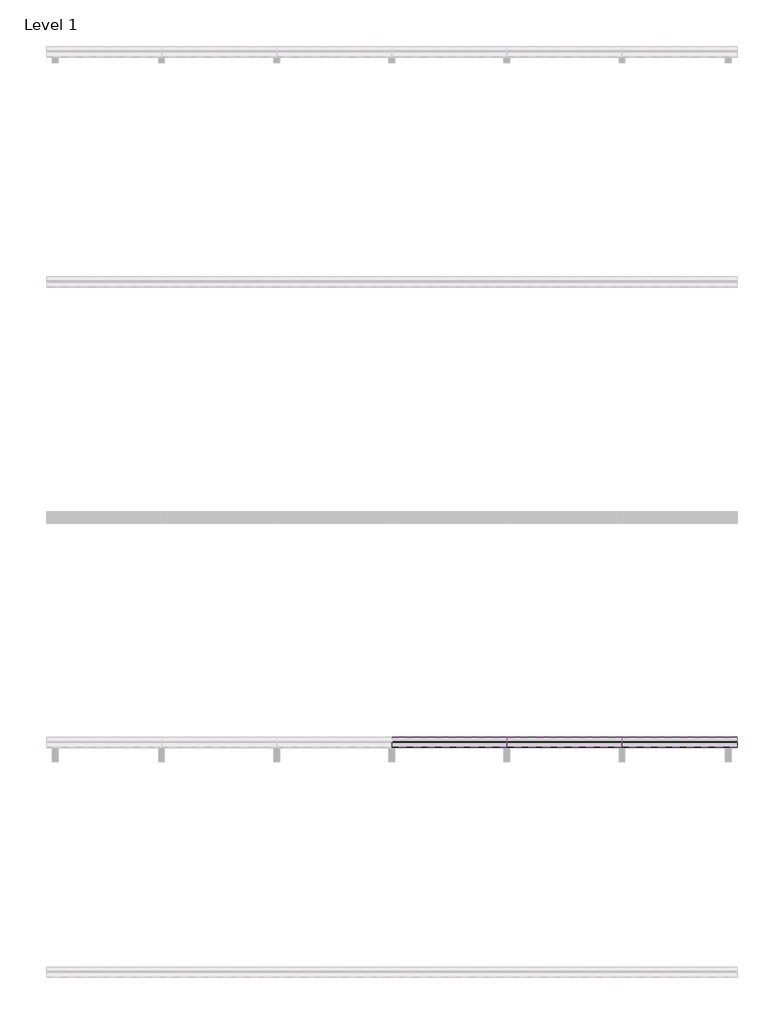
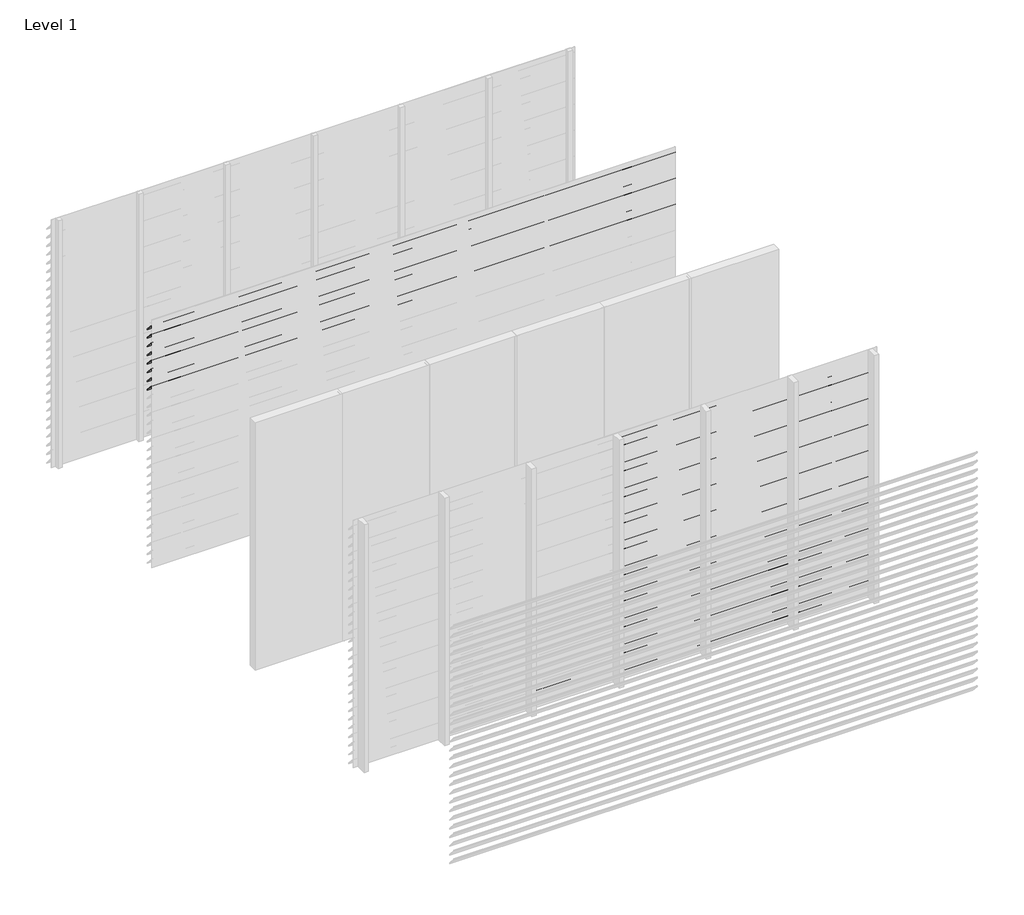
# One storey, part 3 of 9: 94 proxies.
"""IFC4 building model written with IfcOpenShell, lengths in millimetres."""

from ifc_helpers import new_model, si_unit, frame, origin, place, context, project, spatial, polyline, outline, extrude, element, save

model = new_model("IFC4")

# Units and contexts
model_context = context("Model", 3, world=origin())
ifc_project = project(units=[si_unit("LENGTHUNIT", "METRE", prefix="MILLI")], contexts=[model_context])

# Site, building, storey
site = spatial("IfcSite", under=ifc_project)
building = spatial("IfcBuilding", under=site)
storey = spatial("IfcBuildingStorey", under=building, Name="Level 1", Elevation=0.0)

# Proxies
placement = place(None, origin())
element("IfcBuildingElementProxy", 1, Name="Wall Sweeps", at=placement, inside=storey, context=model_context, shape_type="SweptSolid", body=[
    extrude(outline(polyline([(-13995.0, 2940.0), (-13995.0, 2935.6232888), (-13908.0, 2839.0), (-13908.0, 2829.0), (-13997.0, 2927.8445138), (-13997.0, 2940.0), (-13995.0, 2940.0)])), frame((0.0, 0.0, 0.0), z_axis=(1.0, 0.0, 0.0), x_axis=(0.0, 1.0, 0.0)), (0.0, 0.0, 1.0), 6000.0),
])
element("IfcBuildingElementProxy", 2, Name="Wall Sweeps", at=placement, inside=storey, context=model_context, shape_type="SweptSolid", body=[
    extrude(outline(polyline([(-13995.0, 2835.0), (-13995.0, 2830.6232888), (-13908.0, 2734.0), (-13908.0, 2724.0), (-13997.0, 2822.8445138), (-13997.0, 2835.0), (-13995.0, 2835.0)])), frame((0.0, 0.0, 0.0), z_axis=(1.0, 0.0, 0.0), x_axis=(0.0, 1.0, 0.0)), (0.0, 0.0, 1.0), 6000.0),
])
element("IfcBuildingElementProxy", 3, Name="Wall Sweeps", at=placement, inside=storey, context=model_context, shape_type="SweptSolid", body=[
    extrude(outline(polyline([(-13995.0, 2730.0), (-13995.0, 2725.6232888), (-13908.0, 2629.0), (-13908.0, 2619.0), (-13997.0, 2717.8445138), (-13997.0, 2730.0), (-13995.0, 2730.0)])), frame((0.0, 0.0, 0.0), z_axis=(1.0, 0.0, 0.0), x_axis=(0.0, 1.0, 0.0)), (0.0, 0.0, 1.0), 6000.0),
])
element("IfcBuildingElementProxy", 4, Name="Wall Sweeps", at=placement, inside=storey, context=model_context, shape_type="SweptSolid", body=[
    extrude(outline(polyline([(-13995.0, 2625.0), (-13995.0, 2620.6232888), (-13908.0, 2524.0), (-13908.0, 2514.0), (-13997.0, 2612.8445138), (-13997.0, 2625.0), (-13995.0, 2625.0)])), frame((0.0, 0.0, 0.0), z_axis=(1.0, 0.0, 0.0), x_axis=(0.0, 1.0, 0.0)), (0.0, 0.0, 1.0), 6000.0),
])
element("IfcBuildingElementProxy", 5, Name="Wall Sweeps", at=placement, inside=storey, context=model_context, shape_type="SweptSolid", body=[
    extrude(outline(polyline([(-13995.0, 2520.0), (-13995.0, 2515.6232888), (-13908.0, 2419.0), (-13908.0, 2409.0), (-13997.0, 2507.8445138), (-13997.0, 2520.0), (-13995.0, 2520.0)])), frame((0.0, 0.0, 0.0), z_axis=(1.0, 0.0, 0.0), x_axis=(0.0, 1.0, 0.0)), (0.0, 0.0, 1.0), 6000.0),
])
element("IfcBuildingElementProxy", 6, Name="Wall Sweeps", at=placement, inside=storey, context=model_context, shape_type="SweptSolid", body=[
    extrude(outline(polyline([(-13995.0, 2415.0), (-13995.0, 2410.6232888), (-13908.0, 2314.0), (-13908.0, 2304.0), (-13997.0, 2402.8445138), (-13997.0, 2415.0), (-13995.0, 2415.0)])), frame((0.0, 0.0, 0.0), z_axis=(1.0, 0.0, 0.0), x_axis=(0.0, 1.0, 0.0)), (0.0, 0.0, 1.0), 6000.0),
])
element("IfcBuildingElementProxy", 7, Name="Wall Sweeps", at=placement, inside=storey, context=model_context, shape_type="SweptSolid", body=[
    extrude(outline(polyline([(-13995.0, 2310.0), (-13995.0, 2305.6232888), (-13908.0, 2209.0), (-13908.0, 2199.0), (-13997.0, 2297.8445138), (-13997.0, 2310.0), (-13995.0, 2310.0)])), frame((0.0, 0.0, 0.0), z_axis=(1.0, 0.0, 0.0), x_axis=(0.0, 1.0, 0.0)), (0.0, 0.0, 1.0), 6000.0),
])
element("IfcBuildingElementProxy", 8, Name="Wall Sweeps", at=placement, inside=storey, context=model_context, shape_type="SweptSolid", body=[
    extrude(outline(polyline([(-13995.0, 2205.0), (-13995.0, 2200.6232888), (-13908.0, 2104.0), (-13908.0, 2094.0), (-13997.0, 2192.8445138), (-13997.0, 2205.0), (-13995.0, 2205.0)])), frame((0.0, 0.0, 0.0), z_axis=(1.0, 0.0, 0.0), x_axis=(0.0, 1.0, 0.0)), (0.0, 0.0, 1.0), 6000.0),
])
element("IfcBuildingElementProxy", 9, Name="Wall Sweeps", at=placement, inside=storey, context=model_context, shape_type="SweptSolid", body=[
    extrude(outline(polyline([(-17995.0, 2940.0), (-17995.0, 2935.6232888), (-17908.0, 2839.0), (-17908.0, 2829.0), (-17997.0, 2927.8445138), (-17997.0, 2940.0), (-17995.0, 2940.0)])), frame((4999.9999998, 0.0, 0.0), z_axis=(1.0, 0.0, 0.0), x_axis=(0.0, 1.0, 0.0)), (0.0, 0.0, 1.0), 1000.0000002),
])
element("IfcBuildingElementProxy", 10, Name="Wall Sweeps", at=placement, inside=storey, context=model_context, shape_type="SweptSolid", body=[
    extrude(outline(polyline([(-17995.0, 2835.0), (-17995.0, 2830.6232888), (-17908.0, 2734.0), (-17908.0, 2724.0), (-17997.0, 2822.8445138), (-17997.0, 2835.0), (-17995.0, 2835.0)])), frame((4999.9999998, 0.0, 0.0), z_axis=(1.0, 0.0, 0.0), x_axis=(0.0, 1.0, 0.0)), (0.0, 0.0, 1.0), 1000.0000002),
])
element("IfcBuildingElementProxy", 11, Name="Wall Sweeps", at=placement, inside=storey, context=model_context, shape_type="SweptSolid", body=[
    extrude(outline(polyline([(-17995.0, 2730.0), (-17995.0, 2725.6232888), (-17908.0, 2629.0), (-17908.0, 2619.0), (-17997.0, 2717.8445138), (-17997.0, 2730.0), (-17995.0, 2730.0)])), frame((4999.9999998, 0.0, 0.0), z_axis=(1.0, 0.0, 0.0), x_axis=(0.0, 1.0, 0.0)), (0.0, 0.0, 1.0), 1000.0000002),
])
element("IfcBuildingElementProxy", 12, Name="Wall Sweeps", at=placement, inside=storey, context=model_context, shape_type="SweptSolid", body=[
    extrude(outline(polyline([(-17995.0, 2625.0), (-17995.0, 2620.6232888), (-17908.0, 2524.0), (-17908.0, 2514.0), (-17997.0, 2612.8445138), (-17997.0, 2625.0), (-17995.0, 2625.0)])), frame((4999.9999998, 0.0, 0.0), z_axis=(1.0, 0.0, 0.0), x_axis=(0.0, 1.0, 0.0)), (0.0, 0.0, 1.0), 1000.0000002),
])
element("IfcBuildingElementProxy", 13, Name="Wall Sweeps", at=placement, inside=storey, context=model_context, shape_type="SweptSolid", body=[
    extrude(outline(polyline([(-17995.0, 2520.0), (-17995.0, 2515.6232888), (-17908.0, 2419.0), (-17908.0, 2409.0), (-17997.0, 2507.8445138), (-17997.0, 2520.0), (-17995.0, 2520.0)])), frame((4999.9999998, 0.0, 0.0), z_axis=(1.0, 0.0, 0.0), x_axis=(0.0, 1.0, 0.0)), (0.0, 0.0, 1.0), 1000.0000002),
])
element("IfcBuildingElementProxy", 14, Name="Wall Sweeps", at=placement, inside=storey, context=model_context, shape_type="SweptSolid", body=[
    extrude(outline(polyline([(-17995.0, 2415.0), (-17995.0, 2410.6232888), (-17908.0, 2314.0), (-17908.0, 2304.0), (-17997.0, 2402.8445138), (-17997.0, 2415.0), (-17995.0, 2415.0)])), frame((4999.9999998, 0.0, 0.0), z_axis=(1.0, 0.0, 0.0), x_axis=(0.0, 1.0, 0.0)), (0.0, 0.0, 1.0), 1000.0000002),
])
element("IfcBuildingElementProxy", 15, Name="Wall Sweeps", at=placement, inside=storey, context=model_context, shape_type="SweptSolid", body=[
    extrude(outline(polyline([(-17995.0, 2310.0), (-17995.0, 2305.6232888), (-17908.0, 2209.0), (-17908.0, 2199.0), (-17997.0, 2297.8445138), (-17997.0, 2310.0), (-17995.0, 2310.0)])), frame((4999.9999998, 0.0, 0.0), z_axis=(1.0, 0.0, 0.0), x_axis=(0.0, 1.0, 0.0)), (0.0, 0.0, 1.0), 1000.0000002),
])
element("IfcBuildingElementProxy", 16, Name="Wall Sweeps", at=placement, inside=storey, context=model_context, shape_type="SweptSolid", body=[
    extrude(outline(polyline([(-17995.0, 2205.0), (-17995.0, 2200.6232888), (-17908.0, 2104.0), (-17908.0, 2094.0), (-17997.0, 2192.8445138), (-17997.0, 2205.0), (-17995.0, 2205.0)])), frame((4999.9999998, 0.0, 0.0), z_axis=(1.0, 0.0, 0.0), x_axis=(0.0, 1.0, 0.0)), (0.0, 0.0, 1.0), 1000.0000002),
])
element("IfcBuildingElementProxy", 17, Name="Wall Sweeps", at=placement, inside=storey, context=model_context, shape_type="SweptSolid", body=[
    extrude(outline(polyline([(-17995.0, 2100.0), (-17995.0, 2095.6232888), (-17908.0, 1999.0), (-17908.0, 1989.0), (-17997.0, 2087.8445138), (-17997.0, 2100.0), (-17995.0, 2100.0)])), frame((4999.9999998, 0.0, 0.0), z_axis=(1.0, 0.0, 0.0), x_axis=(0.0, 1.0, 0.0)), (0.0, 0.0, 1.0), 1000.0000002),
])
element("IfcBuildingElementProxy", 18, Name="Wall Sweeps", at=placement, inside=storey, context=model_context, shape_type="SweptSolid", body=[
    extrude(outline(polyline([(-17995.0, 1995.0), (-17995.0, 1990.6232888), (-17908.0, 1894.0), (-17908.0, 1884.0), (-17997.0, 1982.8445138), (-17997.0, 1995.0), (-17995.0, 1995.0)])), frame((4999.9999998, 0.0, 0.0), z_axis=(1.0, 0.0, 0.0), x_axis=(0.0, 1.0, 0.0)), (0.0, 0.0, 1.0), 1000.0000002),
])
element("IfcBuildingElementProxy", 19, Name="Wall Sweeps", at=placement, inside=storey, context=model_context, shape_type="SweptSolid", body=[
    extrude(outline(polyline([(-17995.0, 1890.0), (-17995.0, 1885.6232888), (-17908.0, 1789.0), (-17908.0, 1779.0), (-17997.0, 1877.8445138), (-17997.0, 1890.0), (-17995.0, 1890.0)])), frame((4999.9999998, 0.0, 0.0), z_axis=(1.0, 0.0, 0.0), x_axis=(0.0, 1.0, 0.0)), (0.0, 0.0, 1.0), 1000.0000002),
])
element("IfcBuildingElementProxy", 20, Name="Wall Sweeps", at=placement, inside=storey, context=model_context, shape_type="SweptSolid", body=[
    extrude(outline(polyline([(-17995.0, 1785.0), (-17995.0, 1780.6232888), (-17908.0, 1684.0), (-17908.0, 1674.0), (-17997.0, 1772.8445138), (-17997.0, 1785.0), (-17995.0, 1785.0)])), frame((4999.9999998, 0.0, 0.0), z_axis=(1.0, 0.0, 0.0), x_axis=(0.0, 1.0, 0.0)), (0.0, 0.0, 1.0), 1000.0000002),
])
element("IfcBuildingElementProxy", 21, Name="Wall Sweeps", at=placement, inside=storey, context=model_context, shape_type="SweptSolid", body=[
    extrude(outline(polyline([(-17995.0, 1680.0), (-17995.0, 1675.6232888), (-17908.0, 1579.0), (-17908.0, 1569.0), (-17997.0, 1667.8445138), (-17997.0, 1680.0), (-17995.0, 1680.0)])), frame((4999.9999998, 0.0, 0.0), z_axis=(1.0, 0.0, 0.0), x_axis=(0.0, 1.0, 0.0)), (0.0, 0.0, 1.0), 1000.0000002),
])
element("IfcBuildingElementProxy", 22, Name="Wall Sweeps", at=placement, inside=storey, context=model_context, shape_type="SweptSolid", body=[
    extrude(outline(polyline([(-17995.0, 1575.0), (-17995.0, 1570.6232888), (-17908.0, 1474.0), (-17908.0, 1464.0), (-17997.0, 1562.8445138), (-17997.0, 1575.0), (-17995.0, 1575.0)])), frame((4999.9999998, 0.0, 0.0), z_axis=(1.0, 0.0, 0.0), x_axis=(0.0, 1.0, 0.0)), (0.0, 0.0, 1.0), 1000.0000002),
])
element("IfcBuildingElementProxy", 23, Name="Wall Sweeps", at=placement, inside=storey, context=model_context, shape_type="SweptSolid", body=[
    extrude(outline(polyline([(-17995.0, 1470.0), (-17995.0, 1465.6232888), (-17908.0, 1369.0), (-17908.0, 1359.0), (-17997.0, 1457.8445138), (-17997.0, 1470.0), (-17995.0, 1470.0)])), frame((4999.9999998, 0.0, 0.0), z_axis=(1.0, 0.0, 0.0), x_axis=(0.0, 1.0, 0.0)), (0.0, 0.0, 1.0), 1000.0000002),
])
element("IfcBuildingElementProxy", 24, Name="Wall Sweeps", at=placement, inside=storey, context=model_context, shape_type="SweptSolid", body=[
    extrude(outline(polyline([(-17995.0, 1365.0), (-17995.0, 1360.6232888), (-17908.0, 1264.0), (-17908.0, 1254.0), (-17997.0, 1352.8445138), (-17997.0, 1365.0), (-17995.0, 1365.0)])), frame((4999.9999998, 0.0, 0.0), z_axis=(1.0, 0.0, 0.0), x_axis=(0.0, 1.0, 0.0)), (0.0, 0.0, 1.0), 1000.0000002),
])
element("IfcBuildingElementProxy", 25, Name="Wall Sweeps", at=placement, inside=storey, context=model_context, shape_type="SweptSolid", body=[
    extrude(outline(polyline([(-17995.0, 1260.0), (-17995.0, 1255.6232888), (-17908.0, 1159.0), (-17908.0, 1149.0), (-17997.0, 1247.8445138), (-17997.0, 1260.0), (-17995.0, 1260.0)])), frame((4999.9999998, 0.0, 0.0), z_axis=(1.0, 0.0, 0.0), x_axis=(0.0, 1.0, 0.0)), (0.0, 0.0, 1.0), 1000.0000002),
])
element("IfcBuildingElementProxy", 26, Name="Wall Sweeps", at=placement, inside=storey, context=model_context, shape_type="SweptSolid", body=[
    extrude(outline(polyline([(-17995.0, 1155.0), (-17995.0, 1150.6232888), (-17908.0, 1054.0), (-17908.0, 1044.0), (-17997.0, 1142.8445138), (-17997.0, 1155.0), (-17995.0, 1155.0)])), frame((4999.9999998, 0.0, 0.0), z_axis=(1.0, 0.0, 0.0), x_axis=(0.0, 1.0, 0.0)), (0.0, 0.0, 1.0), 1000.0000002),
])
element("IfcBuildingElementProxy", 27, Name="Wall Sweeps", at=placement, inside=storey, context=model_context, shape_type="SweptSolid", body=[
    extrude(outline(polyline([(-17995.0, 1050.0), (-17995.0, 1045.6232888), (-17908.0, 949.0), (-17908.0, 939.0), (-17997.0, 1037.8445138), (-17997.0, 1050.0), (-17995.0, 1050.0)])), frame((4999.9999998, 0.0, 0.0), z_axis=(1.0, 0.0, 0.0), x_axis=(0.0, 1.0, 0.0)), (0.0, 0.0, 1.0), 1000.0000002),
])
element("IfcBuildingElementProxy", 28, Name="Wall Sweeps", at=placement, inside=storey, context=model_context, shape_type="SweptSolid", body=[
    extrude(outline(polyline([(-17995.0, 945.0), (-17995.0, 940.6232888), (-17908.0, 844.0), (-17908.0, 834.0), (-17997.0, 932.8445138), (-17997.0, 945.0), (-17995.0, 945.0)])), frame((4999.9999998, 0.0, 0.0), z_axis=(1.0, 0.0, 0.0), x_axis=(0.0, 1.0, 0.0)), (0.0, 0.0, 1.0), 1000.0000002),
])
element("IfcBuildingElementProxy", 29, Name="Wall Sweeps", at=placement, inside=storey, context=model_context, shape_type="SweptSolid", body=[
    extrude(outline(polyline([(-17995.0, 840.0), (-17995.0, 835.6232888), (-17908.0, 739.0), (-17908.0, 729.0), (-17997.0, 827.8445138), (-17997.0, 840.0), (-17995.0, 840.0)])), frame((4999.9999998, 0.0, 0.0), z_axis=(1.0, 0.0, 0.0), x_axis=(0.0, 1.0, 0.0)), (0.0, 0.0, 1.0), 1000.0000002),
])
element("IfcBuildingElementProxy", 30, Name="Wall Sweeps", at=placement, inside=storey, context=model_context, shape_type="SweptSolid", body=[
    extrude(outline(polyline([(-17995.0, 735.0), (-17995.0, 730.6232888), (-17908.0, 634.0), (-17908.0, 624.0), (-17997.0, 722.8445138), (-17997.0, 735.0), (-17995.0, 735.0)])), frame((4999.9999998, 0.0, 0.0), z_axis=(1.0, 0.0, 0.0), x_axis=(0.0, 1.0, 0.0)), (0.0, 0.0, 1.0), 1000.0000002),
])
element("IfcBuildingElementProxy", 31, Name="Wall Sweeps", at=placement, inside=storey, context=model_context, shape_type="SweptSolid", body=[
    extrude(outline(polyline([(-17995.0, 630.0), (-17995.0, 625.6232888), (-17908.0, 529.0), (-17908.0, 519.0), (-17997.0, 617.8445138), (-17997.0, 630.0), (-17995.0, 630.0)])), frame((4999.9999998, 0.0, 0.0), z_axis=(1.0, 0.0, 0.0), x_axis=(0.0, 1.0, 0.0)), (0.0, 0.0, 1.0), 1000.0000002),
])
element("IfcBuildingElementProxy", 32, Name="Wall Sweeps", at=placement, inside=storey, context=model_context, shape_type="SweptSolid", body=[
    extrude(outline(polyline([(-17995.0, 525.0), (-17995.0, 520.6232888), (-17908.0, 424.0), (-17908.0, 414.0), (-17997.0, 512.8445138), (-17997.0, 525.0), (-17995.0, 525.0)])), frame((4999.9999998, 0.0, 0.0), z_axis=(1.0, 0.0, 0.0), x_axis=(0.0, 1.0, 0.0)), (0.0, 0.0, 1.0), 1000.0000002),
])
element("IfcBuildingElementProxy", 33, Name="Wall Sweeps", at=placement, inside=storey, context=model_context, shape_type="SweptSolid", body=[
    extrude(outline(polyline([(-17995.0, 420.0), (-17995.0, 415.6232888), (-17908.0, 319.0), (-17908.0, 309.0), (-17997.0, 407.8445138), (-17997.0, 420.0), (-17995.0, 420.0)])), frame((4999.9999998, 0.0, 0.0), z_axis=(1.0, 0.0, 0.0), x_axis=(0.0, 1.0, 0.0)), (0.0, 0.0, 1.0), 1000.0000002),
])
element("IfcBuildingElementProxy", 34, Name="Wall Sweeps", at=placement, inside=storey, context=model_context, shape_type="SweptSolid", body=[
    extrude(outline(polyline([(-17995.0, 315.0), (-17995.0, 310.6232888), (-17908.0, 214.0), (-17908.0, 204.0), (-17997.0, 302.8445138), (-17997.0, 315.0), (-17995.0, 315.0)])), frame((4999.9999998, 0.0, 0.0), z_axis=(1.0, 0.0, 0.0), x_axis=(0.0, 1.0, 0.0)), (0.0, 0.0, 1.0), 1000.0000002),
])
element("IfcBuildingElementProxy", 35, Name="Wall Sweeps", at=placement, inside=storey, context=model_context, shape_type="SweptSolid", body=[
    extrude(outline(polyline([(-17995.0, 210.0), (-17995.0, 205.6232888), (-17908.0, 109.0), (-17908.0, 99.0), (-17997.0, 197.8445138), (-17997.0, 210.0), (-17995.0, 210.0)])), frame((4999.9999998, 0.0, 0.0), z_axis=(1.0, 0.0, 0.0), x_axis=(0.0, 1.0, 0.0)), (0.0, 0.0, 1.0), 1000.0000002),
])
element("IfcBuildingElementProxy", 36, Name="Wall Sweeps", at=placement, inside=storey, context=model_context, shape_type="SweptSolid", body=[
    extrude(outline(polyline([(-17995.0, 105.0), (-17995.0, 100.6232888), (-17908.0, 4.0), (-17908.0, -6.0), (-17997.0, 92.8445138), (-17997.0, 105.0), (-17995.0, 105.0)])), frame((4999.9999998, 0.0, 0.0), z_axis=(1.0, 0.0, 0.0), x_axis=(0.0, 1.0, 0.0)), (0.0, 0.0, 1.0), 1000.0000002),
])
element("IfcBuildingElementProxy", 37, Name="Wall Sweeps", at=placement, inside=storey, context=model_context, shape_type="SweptSolid", body=[
    extrude(outline(polyline([(-17995.0, 2940.0), (-17995.0, 2935.6232888), (-17908.0, 2839.0), (-17908.0, 2829.0), (-17997.0, 2927.8445138), (-17997.0, 2940.0), (-17995.0, 2940.0)])), frame((3999.9999999, 0.0, 0.0), z_axis=(1.0, 0.0, 0.0), x_axis=(0.0, 1.0, 0.0)), (0.0, 0.0, 1.0), 999.9999999),
])
element("IfcBuildingElementProxy", 38, Name="Wall Sweeps", at=placement, inside=storey, context=model_context, shape_type="SweptSolid", body=[
    extrude(outline(polyline([(-17995.0, 2835.0), (-17995.0, 2830.6232888), (-17908.0, 2734.0), (-17908.0, 2724.0), (-17997.0, 2822.8445138), (-17997.0, 2835.0), (-17995.0, 2835.0)])), frame((3999.9999999, 0.0, 0.0), z_axis=(1.0, 0.0, 0.0), x_axis=(0.0, 1.0, 0.0)), (0.0, 0.0, 1.0), 999.9999999),
])
element("IfcBuildingElementProxy", 39, Name="Wall Sweeps", at=placement, inside=storey, context=model_context, shape_type="SweptSolid", body=[
    extrude(outline(polyline([(-17995.0, 2730.0), (-17995.0, 2725.6232888), (-17908.0, 2629.0), (-17908.0, 2619.0), (-17997.0, 2717.8445138), (-17997.0, 2730.0), (-17995.0, 2730.0)])), frame((3999.9999999, 0.0, 0.0), z_axis=(1.0, 0.0, 0.0), x_axis=(0.0, 1.0, 0.0)), (0.0, 0.0, 1.0), 999.9999999),
])
element("IfcBuildingElementProxy", 40, Name="Wall Sweeps", at=placement, inside=storey, context=model_context, shape_type="SweptSolid", body=[
    extrude(outline(polyline([(-17995.0, 2625.0), (-17995.0, 2620.6232888), (-17908.0, 2524.0), (-17908.0, 2514.0), (-17997.0, 2612.8445138), (-17997.0, 2625.0), (-17995.0, 2625.0)])), frame((3999.9999999, 0.0, 0.0), z_axis=(1.0, 0.0, 0.0), x_axis=(0.0, 1.0, 0.0)), (0.0, 0.0, 1.0), 999.9999999),
])
element("IfcBuildingElementProxy", 41, Name="Wall Sweeps", at=placement, inside=storey, context=model_context, shape_type="SweptSolid", body=[
    extrude(outline(polyline([(-17995.0, 2520.0), (-17995.0, 2515.6232888), (-17908.0, 2419.0), (-17908.0, 2409.0), (-17997.0, 2507.8445138), (-17997.0, 2520.0), (-17995.0, 2520.0)])), frame((3999.9999999, 0.0, 0.0), z_axis=(1.0, 0.0, 0.0), x_axis=(0.0, 1.0, 0.0)), (0.0, 0.0, 1.0), 999.9999999),
])
element("IfcBuildingElementProxy", 42, Name="Wall Sweeps", at=placement, inside=storey, context=model_context, shape_type="SweptSolid", body=[
    extrude(outline(polyline([(-17995.0, 2415.0), (-17995.0, 2410.6232888), (-17908.0, 2314.0), (-17908.0, 2304.0), (-17997.0, 2402.8445138), (-17997.0, 2415.0), (-17995.0, 2415.0)])), frame((3999.9999999, 0.0, 0.0), z_axis=(1.0, 0.0, 0.0), x_axis=(0.0, 1.0, 0.0)), (0.0, 0.0, 1.0), 999.9999999),
])
element("IfcBuildingElementProxy", 43, Name="Wall Sweeps", at=placement, inside=storey, context=model_context, shape_type="SweptSolid", body=[
    extrude(outline(polyline([(-17995.0, 2310.0), (-17995.0, 2305.6232888), (-17908.0, 2209.0), (-17908.0, 2199.0), (-17997.0, 2297.8445138), (-17997.0, 2310.0), (-17995.0, 2310.0)])), frame((3999.9999999, 0.0, 0.0), z_axis=(1.0, 0.0, 0.0), x_axis=(0.0, 1.0, 0.0)), (0.0, 0.0, 1.0), 999.9999999),
])
element("IfcBuildingElementProxy", 44, Name="Wall Sweeps", at=placement, inside=storey, context=model_context, shape_type="SweptSolid", body=[
    extrude(outline(polyline([(-17995.0, 2205.0), (-17995.0, 2200.6232888), (-17908.0, 2104.0), (-17908.0, 2094.0), (-17997.0, 2192.8445138), (-17997.0, 2205.0), (-17995.0, 2205.0)])), frame((3999.9999999, 0.0, 0.0), z_axis=(1.0, 0.0, 0.0), x_axis=(0.0, 1.0, 0.0)), (0.0, 0.0, 1.0), 999.9999999),
])
element("IfcBuildingElementProxy", 45, Name="Wall Sweeps", at=placement, inside=storey, context=model_context, shape_type="SweptSolid", body=[
    extrude(outline(polyline([(-17995.0, 2100.0), (-17995.0, 2095.6232888), (-17908.0, 1999.0), (-17908.0, 1989.0), (-17997.0, 2087.8445138), (-17997.0, 2100.0), (-17995.0, 2100.0)])), frame((3999.9999999, 0.0, 0.0), z_axis=(1.0, 0.0, 0.0), x_axis=(0.0, 1.0, 0.0)), (0.0, 0.0, 1.0), 999.9999999),
])
element("IfcBuildingElementProxy", 46, Name="Wall Sweeps", at=placement, inside=storey, context=model_context, shape_type="SweptSolid", body=[
    extrude(outline(polyline([(-17995.0, 1995.0), (-17995.0, 1990.6232888), (-17908.0, 1894.0), (-17908.0, 1884.0), (-17997.0, 1982.8445138), (-17997.0, 1995.0), (-17995.0, 1995.0)])), frame((3999.9999999, 0.0, 0.0), z_axis=(1.0, 0.0, 0.0), x_axis=(0.0, 1.0, 0.0)), (0.0, 0.0, 1.0), 999.9999999),
])
element("IfcBuildingElementProxy", 47, Name="Wall Sweeps", at=placement, inside=storey, context=model_context, shape_type="SweptSolid", body=[
    extrude(outline(polyline([(-17995.0, 1890.0), (-17995.0, 1885.6232888), (-17908.0, 1789.0), (-17908.0, 1779.0), (-17997.0, 1877.8445138), (-17997.0, 1890.0), (-17995.0, 1890.0)])), frame((3999.9999999, 0.0, 0.0), z_axis=(1.0, 0.0, 0.0), x_axis=(0.0, 1.0, 0.0)), (0.0, 0.0, 1.0), 999.9999999),
])
element("IfcBuildingElementProxy", 48, Name="Wall Sweeps", at=placement, inside=storey, context=model_context, shape_type="SweptSolid", body=[
    extrude(outline(polyline([(-17995.0, 1785.0), (-17995.0, 1780.6232888), (-17908.0, 1684.0), (-17908.0, 1674.0), (-17997.0, 1772.8445138), (-17997.0, 1785.0), (-17995.0, 1785.0)])), frame((3999.9999999, 0.0, 0.0), z_axis=(1.0, 0.0, 0.0), x_axis=(0.0, 1.0, 0.0)), (0.0, 0.0, 1.0), 999.9999999),
])
element("IfcBuildingElementProxy", 49, Name="Wall Sweeps", at=placement, inside=storey, context=model_context, shape_type="SweptSolid", body=[
    extrude(outline(polyline([(-17995.0, 1680.0), (-17995.0, 1675.6232888), (-17908.0, 1579.0), (-17908.0, 1569.0), (-17997.0, 1667.8445138), (-17997.0, 1680.0), (-17995.0, 1680.0)])), frame((3999.9999999, 0.0, 0.0), z_axis=(1.0, 0.0, 0.0), x_axis=(0.0, 1.0, 0.0)), (0.0, 0.0, 1.0), 999.9999999),
])
element("IfcBuildingElementProxy", 50, Name="Wall Sweeps", at=placement, inside=storey, context=model_context, shape_type="SweptSolid", body=[
    extrude(outline(polyline([(-17995.0, 1575.0), (-17995.0, 1570.6232888), (-17908.0, 1474.0), (-17908.0, 1464.0), (-17997.0, 1562.8445138), (-17997.0, 1575.0), (-17995.0, 1575.0)])), frame((3999.9999999, 0.0, 0.0), z_axis=(1.0, 0.0, 0.0), x_axis=(0.0, 1.0, 0.0)), (0.0, 0.0, 1.0), 999.9999999),
])
element("IfcBuildingElementProxy", 51, Name="Wall Sweeps", at=placement, inside=storey, context=model_context, shape_type="SweptSolid", body=[
    extrude(outline(polyline([(-17995.0, 1470.0), (-17995.0, 1465.6232888), (-17908.0, 1369.0), (-17908.0, 1359.0), (-17997.0, 1457.8445138), (-17997.0, 1470.0), (-17995.0, 1470.0)])), frame((3999.9999999, 0.0, 0.0), z_axis=(1.0, 0.0, 0.0), x_axis=(0.0, 1.0, 0.0)), (0.0, 0.0, 1.0), 999.9999999),
])
element("IfcBuildingElementProxy", 52, Name="Wall Sweeps", at=placement, inside=storey, context=model_context, shape_type="SweptSolid", body=[
    extrude(outline(polyline([(-17995.0, 1365.0), (-17995.0, 1360.6232888), (-17908.0, 1264.0), (-17908.0, 1254.0), (-17997.0, 1352.8445138), (-17997.0, 1365.0), (-17995.0, 1365.0)])), frame((3999.9999999, 0.0, 0.0), z_axis=(1.0, 0.0, 0.0), x_axis=(0.0, 1.0, 0.0)), (0.0, 0.0, 1.0), 999.9999999),
])
element("IfcBuildingElementProxy", 53, Name="Wall Sweeps", at=placement, inside=storey, context=model_context, shape_type="SweptSolid", body=[
    extrude(outline(polyline([(-17995.0, 1260.0), (-17995.0, 1255.6232888), (-17908.0, 1159.0), (-17908.0, 1149.0), (-17997.0, 1247.8445138), (-17997.0, 1260.0), (-17995.0, 1260.0)])), frame((3999.9999999, 0.0, 0.0), z_axis=(1.0, 0.0, 0.0), x_axis=(0.0, 1.0, 0.0)), (0.0, 0.0, 1.0), 999.9999999),
])
element("IfcBuildingElementProxy", 54, Name="Wall Sweeps", at=placement, inside=storey, context=model_context, shape_type="SweptSolid", body=[
    extrude(outline(polyline([(-17995.0, 1155.0), (-17995.0, 1150.6232888), (-17908.0, 1054.0), (-17908.0, 1044.0), (-17997.0, 1142.8445138), (-17997.0, 1155.0), (-17995.0, 1155.0)])), frame((3999.9999999, 0.0, 0.0), z_axis=(1.0, 0.0, 0.0), x_axis=(0.0, 1.0, 0.0)), (0.0, 0.0, 1.0), 999.9999999),
])
element("IfcBuildingElementProxy", 55, Name="Wall Sweeps", at=placement, inside=storey, context=model_context, shape_type="SweptSolid", body=[
    extrude(outline(polyline([(-17995.0, 1050.0), (-17995.0, 1045.6232888), (-17908.0, 949.0), (-17908.0, 939.0), (-17997.0, 1037.8445138), (-17997.0, 1050.0), (-17995.0, 1050.0)])), frame((3999.9999999, 0.0, 0.0), z_axis=(1.0, 0.0, 0.0), x_axis=(0.0, 1.0, 0.0)), (0.0, 0.0, 1.0), 999.9999999),
])
element("IfcBuildingElementProxy", 56, Name="Wall Sweeps", at=placement, inside=storey, context=model_context, shape_type="SweptSolid", body=[
    extrude(outline(polyline([(-17995.0, 945.0), (-17995.0, 940.6232888), (-17908.0, 844.0), (-17908.0, 834.0), (-17997.0, 932.8445138), (-17997.0, 945.0), (-17995.0, 945.0)])), frame((3999.9999999, 0.0, 0.0), z_axis=(1.0, 0.0, 0.0), x_axis=(0.0, 1.0, 0.0)), (0.0, 0.0, 1.0), 999.9999999),
])
element("IfcBuildingElementProxy", 57, Name="Wall Sweeps", at=placement, inside=storey, context=model_context, shape_type="SweptSolid", body=[
    extrude(outline(polyline([(-17995.0, 840.0), (-17995.0, 835.6232888), (-17908.0, 739.0), (-17908.0, 729.0), (-17997.0, 827.8445138), (-17997.0, 840.0), (-17995.0, 840.0)])), frame((3999.9999999, 0.0, 0.0), z_axis=(1.0, 0.0, 0.0), x_axis=(0.0, 1.0, 0.0)), (0.0, 0.0, 1.0), 999.9999999),
])
element("IfcBuildingElementProxy", 58, Name="Wall Sweeps", at=placement, inside=storey, context=model_context, shape_type="SweptSolid", body=[
    extrude(outline(polyline([(-17995.0, 735.0), (-17995.0, 730.6232888), (-17908.0, 634.0), (-17908.0, 624.0), (-17997.0, 722.8445138), (-17997.0, 735.0), (-17995.0, 735.0)])), frame((3999.9999999, 0.0, 0.0), z_axis=(1.0, 0.0, 0.0), x_axis=(0.0, 1.0, 0.0)), (0.0, 0.0, 1.0), 999.9999999),
])
element("IfcBuildingElementProxy", 59, Name="Wall Sweeps", at=placement, inside=storey, context=model_context, shape_type="SweptSolid", body=[
    extrude(outline(polyline([(-17995.0, 630.0), (-17995.0, 625.6232888), (-17908.0, 529.0), (-17908.0, 519.0), (-17997.0, 617.8445138), (-17997.0, 630.0), (-17995.0, 630.0)])), frame((3999.9999999, 0.0, 0.0), z_axis=(1.0, 0.0, 0.0), x_axis=(0.0, 1.0, 0.0)), (0.0, 0.0, 1.0), 999.9999999),
])
element("IfcBuildingElementProxy", 60, Name="Wall Sweeps", at=placement, inside=storey, context=model_context, shape_type="SweptSolid", body=[
    extrude(outline(polyline([(-17995.0, 525.0), (-17995.0, 520.6232888), (-17908.0, 424.0), (-17908.0, 414.0), (-17997.0, 512.8445138), (-17997.0, 525.0), (-17995.0, 525.0)])), frame((3999.9999999, 0.0, 0.0), z_axis=(1.0, 0.0, 0.0), x_axis=(0.0, 1.0, 0.0)), (0.0, 0.0, 1.0), 999.9999999),
])
element("IfcBuildingElementProxy", 61, Name="Wall Sweeps", at=placement, inside=storey, context=model_context, shape_type="SweptSolid", body=[
    extrude(outline(polyline([(-17995.0, 420.0), (-17995.0, 415.6232888), (-17908.0, 319.0), (-17908.0, 309.0), (-17997.0, 407.8445138), (-17997.0, 420.0), (-17995.0, 420.0)])), frame((3999.9999999, 0.0, 0.0), z_axis=(1.0, 0.0, 0.0), x_axis=(0.0, 1.0, 0.0)), (0.0, 0.0, 1.0), 999.9999999),
])
element("IfcBuildingElementProxy", 62, Name="Wall Sweeps", at=placement, inside=storey, context=model_context, shape_type="SweptSolid", body=[
    extrude(outline(polyline([(-17995.0, 315.0), (-17995.0, 310.6232888), (-17908.0, 214.0), (-17908.0, 204.0), (-17997.0, 302.8445138), (-17997.0, 315.0), (-17995.0, 315.0)])), frame((3999.9999999, 0.0, 0.0), z_axis=(1.0, 0.0, 0.0), x_axis=(0.0, 1.0, 0.0)), (0.0, 0.0, 1.0), 999.9999999),
])
element("IfcBuildingElementProxy", 63, Name="Wall Sweeps", at=placement, inside=storey, context=model_context, shape_type="SweptSolid", body=[
    extrude(outline(polyline([(-17995.0, 210.0), (-17995.0, 205.6232888), (-17908.0, 109.0), (-17908.0, 99.0), (-17997.0, 197.8445138), (-17997.0, 210.0), (-17995.0, 210.0)])), frame((3999.9999999, 0.0, 0.0), z_axis=(1.0, 0.0, 0.0), x_axis=(0.0, 1.0, 0.0)), (0.0, 0.0, 1.0), 999.9999999),
])
element("IfcBuildingElementProxy", 64, Name="Wall Sweeps", at=placement, inside=storey, context=model_context, shape_type="SweptSolid", body=[
    extrude(outline(polyline([(-17995.0, 105.0), (-17995.0, 100.6232888), (-17908.0, 4.0), (-17908.0, -6.0), (-17997.0, 92.8445138), (-17997.0, 105.0), (-17995.0, 105.0)])), frame((3999.9999999, 0.0, 0.0), z_axis=(1.0, 0.0, 0.0), x_axis=(0.0, 1.0, 0.0)), (0.0, 0.0, 1.0), 999.9999999),
])
element("IfcBuildingElementProxy", 65, Name="Wall Sweeps", at=placement, inside=storey, context=model_context, shape_type="SweptSolid", body=[
    extrude(outline(polyline([(-17995.0, 2940.0), (-17995.0, 2935.6232888), (-17908.0, 2839.0), (-17908.0, 2829.0), (-17997.0, 2927.8445138), (-17997.0, 2940.0), (-17995.0, 2940.0)])), frame((3000.0, 0.0, 0.0), z_axis=(1.0, 0.0, 0.0), x_axis=(0.0, 1.0, 0.0)), (0.0, 0.0, 1.0), 999.9999999),
])
element("IfcBuildingElementProxy", 66, Name="Wall Sweeps", at=placement, inside=storey, context=model_context, shape_type="SweptSolid", body=[
    extrude(outline(polyline([(-17995.0, 2835.0), (-17995.0, 2830.6232888), (-17908.0, 2734.0), (-17908.0, 2724.0), (-17997.0, 2822.8445138), (-17997.0, 2835.0), (-17995.0, 2835.0)])), frame((3000.0, 0.0, 0.0), z_axis=(1.0, 0.0, 0.0), x_axis=(0.0, 1.0, 0.0)), (0.0, 0.0, 1.0), 999.9999999),
])
element("IfcBuildingElementProxy", 67, Name="Wall Sweeps", at=placement, inside=storey, context=model_context, shape_type="SweptSolid", body=[
    extrude(outline(polyline([(-17995.0, 2730.0), (-17995.0, 2725.6232888), (-17908.0, 2629.0), (-17908.0, 2619.0), (-17997.0, 2717.8445138), (-17997.0, 2730.0), (-17995.0, 2730.0)])), frame((3000.0, 0.0, 0.0), z_axis=(1.0, 0.0, 0.0), x_axis=(0.0, 1.0, 0.0)), (0.0, 0.0, 1.0), 999.9999999),
])
element("IfcBuildingElementProxy", 68, Name="Wall Sweeps", at=placement, inside=storey, context=model_context, shape_type="SweptSolid", body=[
    extrude(outline(polyline([(-17995.0, 2625.0), (-17995.0, 2620.6232888), (-17908.0, 2524.0), (-17908.0, 2514.0), (-17997.0, 2612.8445138), (-17997.0, 2625.0), (-17995.0, 2625.0)])), frame((3000.0, 0.0, 0.0), z_axis=(1.0, 0.0, 0.0), x_axis=(0.0, 1.0, 0.0)), (0.0, 0.0, 1.0), 999.9999999),
])
element("IfcBuildingElementProxy", 69, Name="Wall Sweeps", at=placement, inside=storey, context=model_context, shape_type="SweptSolid", body=[
    extrude(outline(polyline([(-17995.0, 2520.0), (-17995.0, 2515.6232888), (-17908.0, 2419.0), (-17908.0, 2409.0), (-17997.0, 2507.8445138), (-17997.0, 2520.0), (-17995.0, 2520.0)])), frame((3000.0, 0.0, 0.0), z_axis=(1.0, 0.0, 0.0), x_axis=(0.0, 1.0, 0.0)), (0.0, 0.0, 1.0), 999.9999999),
])
element("IfcBuildingElementProxy", 70, Name="Wall Sweeps", at=placement, inside=storey, context=model_context, shape_type="SweptSolid", body=[
    extrude(outline(polyline([(-17995.0, 2415.0), (-17995.0, 2410.6232888), (-17908.0, 2314.0), (-17908.0, 2304.0), (-17997.0, 2402.8445138), (-17997.0, 2415.0), (-17995.0, 2415.0)])), frame((3000.0, 0.0, 0.0), z_axis=(1.0, 0.0, 0.0), x_axis=(0.0, 1.0, 0.0)), (0.0, 0.0, 1.0), 999.9999999),
])
element("IfcBuildingElementProxy", 71, Name="Wall Sweeps", at=placement, inside=storey, context=model_context, shape_type="SweptSolid", body=[
    extrude(outline(polyline([(-17995.0, 2310.0), (-17995.0, 2305.6232888), (-17908.0, 2209.0), (-17908.0, 2199.0), (-17997.0, 2297.8445138), (-17997.0, 2310.0), (-17995.0, 2310.0)])), frame((3000.0, 0.0, 0.0), z_axis=(1.0, 0.0, 0.0), x_axis=(0.0, 1.0, 0.0)), (0.0, 0.0, 1.0), 999.9999999),
])
element("IfcBuildingElementProxy", 72, Name="Wall Sweeps", at=placement, inside=storey, context=model_context, shape_type="SweptSolid", body=[
    extrude(outline(polyline([(-17995.0, 2205.0), (-17995.0, 2200.6232888), (-17908.0, 2104.0), (-17908.0, 2094.0), (-17997.0, 2192.8445138), (-17997.0, 2205.0), (-17995.0, 2205.0)])), frame((3000.0, 0.0, 0.0), z_axis=(1.0, 0.0, 0.0), x_axis=(0.0, 1.0, 0.0)), (0.0, 0.0, 1.0), 999.9999999),
])
element("IfcBuildingElementProxy", 73, Name="Wall Sweeps", at=placement, inside=storey, context=model_context, shape_type="SweptSolid", body=[
    extrude(outline(polyline([(-17995.0, 2100.0), (-17995.0, 2095.6232888), (-17908.0, 1999.0), (-17908.0, 1989.0), (-17997.0, 2087.8445138), (-17997.0, 2100.0), (-17995.0, 2100.0)])), frame((3000.0, 0.0, 0.0), z_axis=(1.0, 0.0, 0.0), x_axis=(0.0, 1.0, 0.0)), (0.0, 0.0, 1.0), 999.9999999),
])
element("IfcBuildingElementProxy", 74, Name="Wall Sweeps", at=placement, inside=storey, context=model_context, shape_type="SweptSolid", body=[
    extrude(outline(polyline([(-17995.0, 1995.0), (-17995.0, 1990.6232888), (-17908.0, 1894.0), (-17908.0, 1884.0), (-17997.0, 1982.8445138), (-17997.0, 1995.0), (-17995.0, 1995.0)])), frame((3000.0, 0.0, 0.0), z_axis=(1.0, 0.0, 0.0), x_axis=(0.0, 1.0, 0.0)), (0.0, 0.0, 1.0), 999.9999999),
])
element("IfcBuildingElementProxy", 75, Name="Wall Sweeps", at=placement, inside=storey, context=model_context, shape_type="SweptSolid", body=[
    extrude(outline(polyline([(-17995.0, 1890.0), (-17995.0, 1885.6232888), (-17908.0, 1789.0), (-17908.0, 1779.0), (-17997.0, 1877.8445138), (-17997.0, 1890.0), (-17995.0, 1890.0)])), frame((3000.0, 0.0, 0.0), z_axis=(1.0, 0.0, 0.0), x_axis=(0.0, 1.0, 0.0)), (0.0, 0.0, 1.0), 999.9999999),
])
element("IfcBuildingElementProxy", 76, Name="Wall Sweeps", at=placement, inside=storey, context=model_context, shape_type="SweptSolid", body=[
    extrude(outline(polyline([(-17995.0, 1785.0), (-17995.0, 1780.6232888), (-17908.0, 1684.0), (-17908.0, 1674.0), (-17997.0, 1772.8445138), (-17997.0, 1785.0), (-17995.0, 1785.0)])), frame((3000.0, 0.0, 0.0), z_axis=(1.0, 0.0, 0.0), x_axis=(0.0, 1.0, 0.0)), (0.0, 0.0, 1.0), 999.9999999),
])
element("IfcBuildingElementProxy", 77, Name="Wall Sweeps", at=placement, inside=storey, context=model_context, shape_type="SweptSolid", body=[
    extrude(outline(polyline([(-17995.0, 1680.0), (-17995.0, 1675.6232888), (-17908.0, 1579.0), (-17908.0, 1569.0), (-17997.0, 1667.8445138), (-17997.0, 1680.0), (-17995.0, 1680.0)])), frame((3000.0, 0.0, 0.0), z_axis=(1.0, 0.0, 0.0), x_axis=(0.0, 1.0, 0.0)), (0.0, 0.0, 1.0), 999.9999999),
])
element("IfcBuildingElementProxy", 78, Name="Wall Sweeps", at=placement, inside=storey, context=model_context, shape_type="SweptSolid", body=[
    extrude(outline(polyline([(-17995.0, 1575.0), (-17995.0, 1570.6232888), (-17908.0, 1474.0), (-17908.0, 1464.0), (-17997.0, 1562.8445138), (-17997.0, 1575.0), (-17995.0, 1575.0)])), frame((3000.0, 0.0, 0.0), z_axis=(1.0, 0.0, 0.0), x_axis=(0.0, 1.0, 0.0)), (0.0, 0.0, 1.0), 999.9999999),
])
element("IfcBuildingElementProxy", 79, Name="Wall Sweeps", at=placement, inside=storey, context=model_context, shape_type="SweptSolid", body=[
    extrude(outline(polyline([(-17995.0, 1470.0), (-17995.0, 1465.6232888), (-17908.0, 1369.0), (-17908.0, 1359.0), (-17997.0, 1457.8445138), (-17997.0, 1470.0), (-17995.0, 1470.0)])), frame((3000.0, 0.0, 0.0), z_axis=(1.0, 0.0, 0.0), x_axis=(0.0, 1.0, 0.0)), (0.0, 0.0, 1.0), 999.9999999),
])
element("IfcBuildingElementProxy", 80, Name="Wall Sweeps", at=placement, inside=storey, context=model_context, shape_type="SweptSolid", body=[
    extrude(outline(polyline([(-17995.0, 1365.0), (-17995.0, 1360.6232888), (-17908.0, 1264.0), (-17908.0, 1254.0), (-17997.0, 1352.8445138), (-17997.0, 1365.0), (-17995.0, 1365.0)])), frame((3000.0, 0.0, 0.0), z_axis=(1.0, 0.0, 0.0), x_axis=(0.0, 1.0, 0.0)), (0.0, 0.0, 1.0), 999.9999999),
])
element("IfcBuildingElementProxy", 81, Name="Wall Sweeps", at=placement, inside=storey, context=model_context, shape_type="SweptSolid", body=[
    extrude(outline(polyline([(-17995.0, 1260.0), (-17995.0, 1255.6232888), (-17908.0, 1159.0), (-17908.0, 1149.0), (-17997.0, 1247.8445138), (-17997.0, 1260.0), (-17995.0, 1260.0)])), frame((3000.0, 0.0, 0.0), z_axis=(1.0, 0.0, 0.0), x_axis=(0.0, 1.0, 0.0)), (0.0, 0.0, 1.0), 999.9999999),
])
element("IfcBuildingElementProxy", 82, Name="Wall Sweeps", at=placement, inside=storey, context=model_context, shape_type="SweptSolid", body=[
    extrude(outline(polyline([(-17995.0, 1155.0), (-17995.0, 1150.6232888), (-17908.0, 1054.0), (-17908.0, 1044.0), (-17997.0, 1142.8445138), (-17997.0, 1155.0), (-17995.0, 1155.0)])), frame((3000.0, 0.0, 0.0), z_axis=(1.0, 0.0, 0.0), x_axis=(0.0, 1.0, 0.0)), (0.0, 0.0, 1.0), 999.9999999),
])
element("IfcBuildingElementProxy", 83, Name="Wall Sweeps", at=placement, inside=storey, context=model_context, shape_type="SweptSolid", body=[
    extrude(outline(polyline([(-17995.0, 1050.0), (-17995.0, 1045.6232888), (-17908.0, 949.0), (-17908.0, 939.0), (-17997.0, 1037.8445138), (-17997.0, 1050.0), (-17995.0, 1050.0)])), frame((3000.0, 0.0, 0.0), z_axis=(1.0, 0.0, 0.0), x_axis=(0.0, 1.0, 0.0)), (0.0, 0.0, 1.0), 999.9999999),
])
element("IfcBuildingElementProxy", 84, Name="Wall Sweeps", at=placement, inside=storey, context=model_context, shape_type="SweptSolid", body=[
    extrude(outline(polyline([(-17995.0, 945.0), (-17995.0, 940.6232888), (-17908.0, 844.0), (-17908.0, 834.0), (-17997.0, 932.8445138), (-17997.0, 945.0), (-17995.0, 945.0)])), frame((3000.0, 0.0, 0.0), z_axis=(1.0, 0.0, 0.0), x_axis=(0.0, 1.0, 0.0)), (0.0, 0.0, 1.0), 999.9999999),
])
element("IfcBuildingElementProxy", 85, Name="Wall Sweeps", at=placement, inside=storey, context=model_context, shape_type="SweptSolid", body=[
    extrude(outline(polyline([(-17995.0, 840.0), (-17995.0, 835.6232888), (-17908.0, 739.0), (-17908.0, 729.0), (-17997.0, 827.8445138), (-17997.0, 840.0), (-17995.0, 840.0)])), frame((3000.0, 0.0, 0.0), z_axis=(1.0, 0.0, 0.0), x_axis=(0.0, 1.0, 0.0)), (0.0, 0.0, 1.0), 999.9999999),
])
element("IfcBuildingElementProxy", 86, Name="Wall Sweeps", at=placement, inside=storey, context=model_context, shape_type="SweptSolid", body=[
    extrude(outline(polyline([(-17995.0, 735.0), (-17995.0, 730.6232888), (-17908.0, 634.0), (-17908.0, 624.0), (-17997.0, 722.8445138), (-17997.0, 735.0), (-17995.0, 735.0)])), frame((3000.0, 0.0, 0.0), z_axis=(1.0, 0.0, 0.0), x_axis=(0.0, 1.0, 0.0)), (0.0, 0.0, 1.0), 999.9999999),
])
element("IfcBuildingElementProxy", 87, Name="Wall Sweeps", at=placement, inside=storey, context=model_context, shape_type="SweptSolid", body=[
    extrude(outline(polyline([(-17995.0, 630.0), (-17995.0, 625.6232888), (-17908.0, 529.0), (-17908.0, 519.0), (-17997.0, 617.8445138), (-17997.0, 630.0), (-17995.0, 630.0)])), frame((3000.0, 0.0, 0.0), z_axis=(1.0, 0.0, 0.0), x_axis=(0.0, 1.0, 0.0)), (0.0, 0.0, 1.0), 999.9999999),
])
element("IfcBuildingElementProxy", 88, Name="Wall Sweeps", at=placement, inside=storey, context=model_context, shape_type="SweptSolid", body=[
    extrude(outline(polyline([(-17995.0, 525.0), (-17995.0, 520.6232888), (-17908.0, 424.0), (-17908.0, 414.0), (-17997.0, 512.8445138), (-17997.0, 525.0), (-17995.0, 525.0)])), frame((3000.0, 0.0, 0.0), z_axis=(1.0, 0.0, 0.0), x_axis=(0.0, 1.0, 0.0)), (0.0, 0.0, 1.0), 999.9999999),
])
element("IfcBuildingElementProxy", 89, Name="Wall Sweeps", at=placement, inside=storey, context=model_context, shape_type="SweptSolid", body=[
    extrude(outline(polyline([(-17995.0, 420.0), (-17995.0, 415.6232888), (-17908.0, 319.0), (-17908.0, 309.0), (-17997.0, 407.8445138), (-17997.0, 420.0), (-17995.0, 420.0)])), frame((3000.0, 0.0, 0.0), z_axis=(1.0, 0.0, 0.0), x_axis=(0.0, 1.0, 0.0)), (0.0, 0.0, 1.0), 999.9999999),
])
element("IfcBuildingElementProxy", 90, Name="Wall Sweeps", at=placement, inside=storey, context=model_context, shape_type="SweptSolid", body=[
    extrude(outline(polyline([(-17995.0, 315.0), (-17995.0, 310.6232888), (-17908.0, 214.0), (-17908.0, 204.0), (-17997.0, 302.8445138), (-17997.0, 315.0), (-17995.0, 315.0)])), frame((3000.0, 0.0, 0.0), z_axis=(1.0, 0.0, 0.0), x_axis=(0.0, 1.0, 0.0)), (0.0, 0.0, 1.0), 999.9999999),
])
element("IfcBuildingElementProxy", 91, Name="Wall Sweeps", at=placement, inside=storey, context=model_context, shape_type="SweptSolid", body=[
    extrude(outline(polyline([(-17995.0, 210.0), (-17995.0, 205.6232888), (-17908.0, 109.0), (-17908.0, 99.0), (-17997.0, 197.8445138), (-17997.0, 210.0), (-17995.0, 210.0)])), frame((3000.0, 0.0, 0.0), z_axis=(1.0, 0.0, 0.0), x_axis=(0.0, 1.0, 0.0)), (0.0, 0.0, 1.0), 999.9999999),
])
element("IfcBuildingElementProxy", 92, Name="Wall Sweeps", at=placement, inside=storey, context=model_context, shape_type="SweptSolid", body=[
    extrude(outline(polyline([(-17995.0, 105.0), (-17995.0, 100.6232888), (-17908.0, 4.0), (-17908.0, -6.0), (-17997.0, 92.8445138), (-17997.0, 105.0), (-17995.0, 105.0)])), frame((3000.0, 0.0, 0.0), z_axis=(1.0, 0.0, 0.0), x_axis=(0.0, 1.0, 0.0)), (0.0, 0.0, 1.0), 999.9999999),
])
element("IfcBuildingElementProxy", 93, Name="Wall Sweeps", at=placement, inside=storey, context=model_context, shape_type="SweptSolid", body=[
    extrude(outline(polyline([(-17995.0, 210.0), (-17995.0, 205.6232888), (-17908.0, 109.0), (-17908.0, 99.0), (-17997.0, 197.8445138), (-17997.0, 210.0), (-17995.0, 210.0)])), frame((2000.0000001, 0.0, 0.0), z_axis=(1.0, 0.0, 0.0), x_axis=(0.0, 1.0, 0.0)), (0.0, 0.0, 1.0), 999.9999999),
])
element("IfcBuildingElementProxy", 94, Name="Wall Sweeps", at=placement, inside=storey, context=model_context, shape_type="SweptSolid", body=[
    extrude(outline(polyline([(-17995.0, 105.0), (-17995.0, 100.6232888), (-17908.0, 4.0), (-17908.0, -6.0), (-17997.0, 92.8445138), (-17997.0, 105.0), (-17995.0, 105.0)])), frame((2000.0000001, 0.0, 0.0), z_axis=(1.0, 0.0, 0.0), x_axis=(0.0, 1.0, 0.0)), (0.0, 0.0, 1.0), 999.9999999),
])

save(model, "model.ifc")
